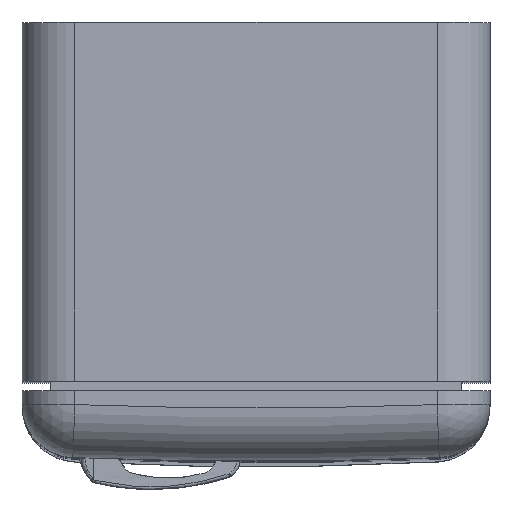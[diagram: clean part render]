
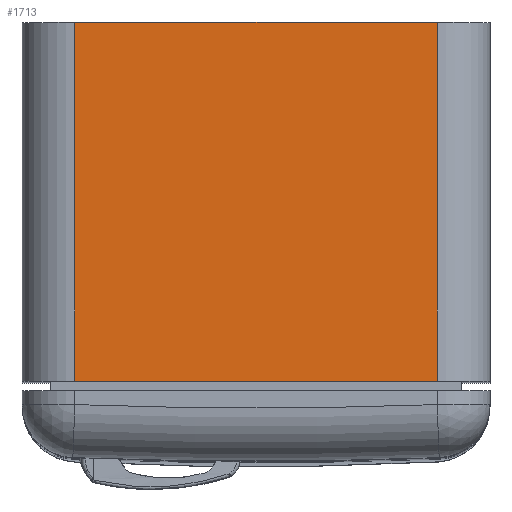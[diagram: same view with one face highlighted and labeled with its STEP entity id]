
A CAD part, top view. The second image highlights one B-rep face of the part: STEP entity #1713.
In plain terms, the highlighted planar face has unit normal (0, 0, 1).
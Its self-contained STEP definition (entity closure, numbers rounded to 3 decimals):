
#434=LINE('',#10290,#787);
#440=LINE('',#10312,#793);
#443=LINE('',#10322,#796);
#444=LINE('',#10323,#797);
#787=VECTOR('',#7173,1.);
#793=VECTOR('',#7193,1.);
#796=VECTOR('',#7202,1.);
#797=VECTOR('',#7203,1.);
#1210=PLANE('',#6207);
#1401=FACE_OUTER_BOUND('',#2431,.T.);
#1713=ADVANCED_FACE('',(#1401),#1210,.F.);
#2431=EDGE_LOOP('',(#3319,#3320,#3321,#3322));
#3319=ORIENTED_EDGE('',*,*,#5206,.F.);
#3320=ORIENTED_EDGE('',*,*,#5222,.T.);
#3321=ORIENTED_EDGE('',*,*,#5217,.T.);
#3322=ORIENTED_EDGE('',*,*,#5223,.T.);
#4563=VERTEX_POINT('',#10289);
#4564=VERTEX_POINT('',#10291);
#4573=VERTEX_POINT('',#10313);
#4574=VERTEX_POINT('',#10314);
#5206=EDGE_CURVE('',#4563,#4564,#434,.T.);
#5217=EDGE_CURVE('',#4573,#4574,#440,.T.);
#5222=EDGE_CURVE('',#4563,#4573,#443,.T.);
#5223=EDGE_CURVE('',#4574,#4564,#444,.T.);
#6207=AXIS2_PLACEMENT_3D('',#10324,#7204,#7205);
#7173=DIRECTION('',(1.,0.,0.));
#7193=DIRECTION('',(1.,0.,0.));
#7202=DIRECTION('',(0.,-1.,0.));
#7203=DIRECTION('',(0.,1.,0.));
#7204=DIRECTION('',(0.,0.,-1.));
#7205=DIRECTION('',(1.,0.,0.));
#10289=CARTESIAN_POINT('',(690.652,431.429,2291.296));
#10290=CARTESIAN_POINT('',(600.652,431.429,2291.296));
#10291=CARTESIAN_POINT('',(1306.652,431.429,2291.296));
#10312=CARTESIAN_POINT('',(600.652,-178.571,2291.296));
#10313=CARTESIAN_POINT('',(690.652,-178.571,2291.296));
#10314=CARTESIAN_POINT('',(1306.652,-178.571,2291.296));
#10322=CARTESIAN_POINT('',(690.652,-178.571,2291.296));
#10323=CARTESIAN_POINT('',(1306.652,-178.571,2291.296));
#10324=CARTESIAN_POINT('',(600.652,-178.571,2291.296));
